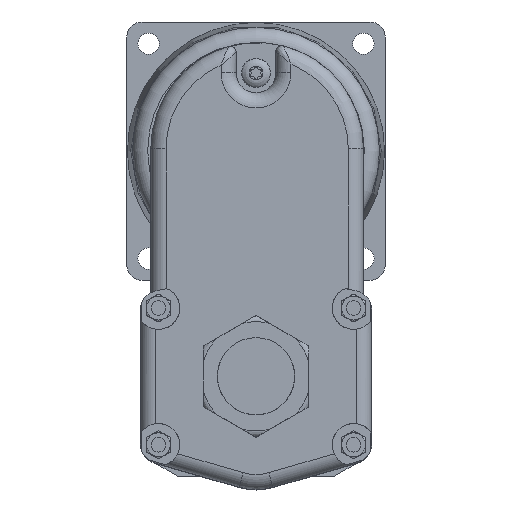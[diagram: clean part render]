
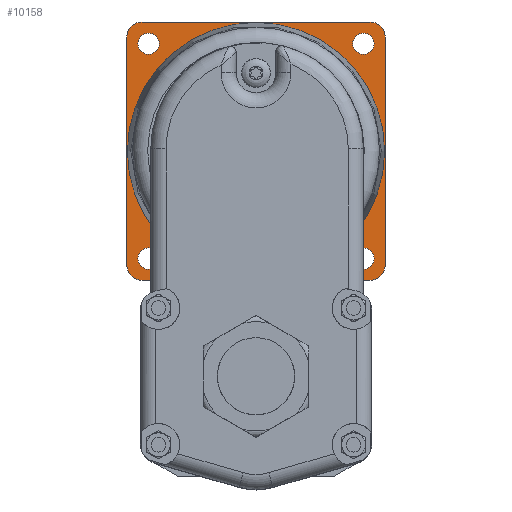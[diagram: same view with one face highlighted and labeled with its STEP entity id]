
A CAD part, top view. The second image highlights one B-rep face of the part: STEP entity #10158.
In plain terms, the highlighted planar face has unit normal (0, 0, 1).
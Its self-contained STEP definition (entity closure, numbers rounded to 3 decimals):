
#363 = ORIENTED_EDGE ( 'NONE', *, *, #9441, .F. ) ;
#364 = ORIENTED_EDGE ( 'NONE', *, *, #9446, .F. ) ;
#365 = ORIENTED_EDGE ( 'NONE', *, *, #9437, .T. ) ;
#366 = ORIENTED_EDGE ( 'NONE', *, *, #9447, .T. ) ;
#367 = ORIENTED_EDGE ( 'NONE', *, *, #9443, .T. ) ;
#368 = ORIENTED_EDGE ( 'NONE', *, *, #9448, .T. ) ;
#369 = ORIENTED_EDGE ( 'NONE', *, *, #9449, .T. ) ;
#370 = ORIENTED_EDGE ( 'NONE', *, *, #9450, .T. ) ;
#371 = ORIENTED_EDGE ( 'NONE', *, *, #9451, .T. ) ;
#372 = ORIENTED_EDGE ( 'NONE', *, *, #9452, .T. ) ;
#373 = ORIENTED_EDGE ( 'NONE', *, *, #9454, .F. ) ;
#374 = ORIENTED_EDGE ( 'NONE', *, *, #9456, .F. ) ;
#375 = ORIENTED_EDGE ( 'NONE', *, *, #9386, .T. ) ;
#1202 = EDGE_LOOP ( 'NONE', ( #375 ) ) ;
#1203 = EDGE_LOOP ( 'NONE', ( #374 ) ) ;
#1204 = EDGE_LOOP ( 'NONE', ( #373 ) ) ;
#1205 = EDGE_LOOP ( 'NONE', ( #365, #366, #367, #368, #369, #370, #371, #372 ) ) ;
#1206 = EDGE_LOOP ( 'NONE', ( #364 ) ) ;
#1213 = EDGE_LOOP ( 'NONE', ( #363 ) ) ;
#2157 = CIRCLE ( 'NONE', #2712, 42.331 ) ;
#2237 = LINE ( 'NONE', #3898, #2238 ) ;
#2238 = VECTOR ( 'NONE', #3899, 1000. ) ;
#2239 = LINE ( 'NONE', #3915, #2246 ) ;
#2243 = LINE ( 'NONE', #3937, #2254 ) ;
#2244 = LINE ( 'NONE', #3932, #2252 ) ;
#2245 = CIRCLE ( 'NONE', #2738, 3.5 ) ;
#2246 = VECTOR ( 'NONE', #3916, 1000. ) ;
#2251 = CIRCLE ( 'NONE', #2744, 3.5 ) ;
#2252 = VECTOR ( 'NONE', #3933, 1000. ) ;
#2253 = CIRCLE ( 'NONE', #2745, 5. ) ;
#2254 = VECTOR ( 'NONE', #3938, 1000. ) ;
#2255 = CIRCLE ( 'NONE', #2742, 5. ) ;
#2257 = CIRCLE ( 'NONE', #2746, 5. ) ;
#2260 = CIRCLE ( 'NONE', #2747, 5. ) ;
#2262 = CIRCLE ( 'NONE', #2748, 3.5 ) ;
#2265 = CIRCLE ( 'NONE', #2735, 3.5 ) ;
#2712 = AXIS2_PLACEMENT_3D ( 'NONE', #3770, #3778, #3779 ) ;
#2735 = AXIS2_PLACEMENT_3D ( 'NONE', #3948, #3949, #3950 ) ;
#2738 = AXIS2_PLACEMENT_3D ( 'NONE', #3909, #3910, #3911 ) ;
#2742 = AXIS2_PLACEMENT_3D ( 'NONE', #3923, #3930, #3931 ) ;
#2744 = AXIS2_PLACEMENT_3D ( 'NONE', #3901, #3924, #3925 ) ;
#2745 = AXIS2_PLACEMENT_3D ( 'NONE', #3920, #3927, #3928 ) ;
#2746 = AXIS2_PLACEMENT_3D ( 'NONE', #3926, #3935, #3936 ) ;
#2747 = AXIS2_PLACEMENT_3D ( 'NONE', #3929, #3940, #3941 ) ;
#2748 = AXIS2_PLACEMENT_3D ( 'NONE', #3934, #3944, #3945 ) ;
#3047 = AXIS2_PLACEMENT_3D ( 'NONE', #7183, #7186, #7187 ) ;
#3770 = CARTESIAN_POINT ( 'NONE',  ( 0., 74.4, -11.3 ) ) ;
#3778 = DIRECTION ( 'NONE',  ( 0., 0., -1. ) ) ;
#3779 = DIRECTION ( 'NONE',  ( -1., 0., 0. ) ) ;
#3898 = CARTESIAN_POINT ( 'NONE',  ( -42.5, 116.9, -11.3 ) ) ;
#3899 = DIRECTION ( 'NONE',  ( 0., -1., 0. ) ) ;
#3901 = CARTESIAN_POINT ( 'NONE',  ( -35.355, 39.045, -11.3 ) ) ;
#3909 = CARTESIAN_POINT ( 'NONE',  ( 35.355, 109.755, -11.3 ) ) ;
#3910 = DIRECTION ( 'NONE',  ( 0., 0., 1. ) ) ;
#3911 = DIRECTION ( 'NONE',  ( 1., 0., 0. ) ) ;
#3915 = CARTESIAN_POINT ( 'NONE',  ( -42.5, 31.9, -11.3 ) ) ;
#3916 = DIRECTION ( 'NONE',  ( 1., 0., 0. ) ) ;
#3920 = CARTESIAN_POINT ( 'NONE',  ( -37.5, 36.9, -11.3 ) ) ;
#3923 = CARTESIAN_POINT ( 'NONE',  ( 37.5, 36.9, -11.3 ) ) ;
#3924 = DIRECTION ( 'NONE',  ( 0., 0., 1. ) ) ;
#3925 = DIRECTION ( 'NONE',  ( 1., 0., 0. ) ) ;
#3926 = CARTESIAN_POINT ( 'NONE',  ( 37.5, 111.9, -11.3 ) ) ;
#3927 = DIRECTION ( 'NONE',  ( 0., 0., 1. ) ) ;
#3928 = DIRECTION ( 'NONE',  ( -1., 0., 0. ) ) ;
#3929 = CARTESIAN_POINT ( 'NONE',  ( -37.5, 111.9, -11.3 ) ) ;
#3930 = DIRECTION ( 'NONE',  ( 0., 0., 1. ) ) ;
#3931 = DIRECTION ( 'NONE',  ( -1., 0., 0. ) ) ;
#3932 = CARTESIAN_POINT ( 'NONE',  ( 42.5, 116.9, -11.3 ) ) ;
#3933 = DIRECTION ( 'NONE',  ( 0., 1., 0. ) ) ;
#3934 = CARTESIAN_POINT ( 'NONE',  ( 35.355, 39.045, -11.3 ) ) ;
#3935 = DIRECTION ( 'NONE',  ( 0., 0., 1. ) ) ;
#3936 = DIRECTION ( 'NONE',  ( -1., 0., 0. ) ) ;
#3937 = CARTESIAN_POINT ( 'NONE',  ( -42.5, 116.9, -11.3 ) ) ;
#3938 = DIRECTION ( 'NONE',  ( -1., 0., 0. ) ) ;
#3940 = DIRECTION ( 'NONE',  ( 0., 0., 1. ) ) ;
#3941 = DIRECTION ( 'NONE',  ( -1., 0., 0. ) ) ;
#3944 = DIRECTION ( 'NONE',  ( 0., 0., 1. ) ) ;
#3945 = DIRECTION ( 'NONE',  ( 1., 0., 0. ) ) ;
#3948 = CARTESIAN_POINT ( 'NONE',  ( -35.355, 109.755, -11.3 ) ) ;
#3949 = DIRECTION ( 'NONE',  ( 0., 0., 1. ) ) ;
#3950 = DIRECTION ( 'NONE',  ( 1., 0., 0. ) ) ;
#5402 = FACE_BOUND ( 'NONE', #1213, .T. ) ;
#5404 = FACE_BOUND ( 'NONE', #1202, .T. ) ;
#5405 = FACE_BOUND ( 'NONE', #1206, .T. ) ;
#5406 = FACE_BOUND ( 'NONE', #1203, .T. ) ;
#5409 = FACE_OUTER_BOUND ( 'NONE', #1205, .T. ) ;
#5411 = FACE_BOUND ( 'NONE', #1204, .T. ) ;
#7183 = CARTESIAN_POINT ( 'NONE',  ( 42.5, 116.9, -11.3 ) ) ;
#7184 = PLANE ( 'NONE',  #3047 ) ;
#7186 = DIRECTION ( 'NONE',  ( 0., 0., -1. ) ) ;
#7187 = DIRECTION ( 'NONE',  ( -1., 0., 0. ) ) ;
#8043 = CARTESIAN_POINT ( 'NONE',  ( -37.5, 116.9, -11.3 ) ) ;
#8044 = CARTESIAN_POINT ( 'NONE',  ( 37.5, 116.9, -11.3 ) ) ;
#8045 = CARTESIAN_POINT ( 'NONE',  ( 42.5, 111.9, -11.3 ) ) ;
#8046 = CARTESIAN_POINT ( 'NONE',  ( 37.5, 31.9, -11.3 ) ) ;
#8047 = CARTESIAN_POINT ( 'NONE',  ( -37.5, 31.9, -11.3 ) ) ;
#8048 = CARTESIAN_POINT ( 'NONE',  ( -42.5, 36.9, -11.3 ) ) ;
#8049 = CARTESIAN_POINT ( 'NONE',  ( 42.5, 36.9, -11.3 ) ) ;
#8050 = CARTESIAN_POINT ( 'NONE',  ( -42.5, 111.9, -11.3 ) ) ;
#8310 = VERTEX_POINT ( 'NONE', #8311 ) ;
#8311 = CARTESIAN_POINT ( 'NONE',  ( -42.331, 74.4, -11.3 ) ) ;
#8322 = VERTEX_POINT ( 'NONE', #8323 ) ;
#8323 = CARTESIAN_POINT ( 'NONE',  ( 38.855, 109.755, -11.3 ) ) ;
#8330 = VERTEX_POINT ( 'NONE', #8331 ) ;
#8331 = CARTESIAN_POINT ( 'NONE',  ( -31.855, 39.045, -11.3 ) ) ;
#8332 = VERTEX_POINT ( 'NONE', #8333 ) ;
#8333 = CARTESIAN_POINT ( 'NONE',  ( 38.855, 39.045, -11.3 ) ) ;
#8334 = VERTEX_POINT ( 'NONE', #8335 ) ;
#8335 = CARTESIAN_POINT ( 'NONE',  ( -31.855, 109.755, -11.3 ) ) ;
#9386 = EDGE_CURVE ( 'NONE', #8310, #8310, #2157, .T. ) ;
#9437 = EDGE_CURVE ( 'NONE', #10562, #10560, #2237, .T. ) ;
#9441 = EDGE_CURVE ( 'NONE', #8322, #8322, #2245, .T. ) ;
#9443 = EDGE_CURVE ( 'NONE', #10559, #10558, #2239, .T. ) ;
#9446 = EDGE_CURVE ( 'NONE', #8330, #8330, #2251, .T. ) ;
#9447 = EDGE_CURVE ( 'NONE', #10560, #10559, #2253, .T. ) ;
#9448 = EDGE_CURVE ( 'NONE', #10558, #10561, #2255, .T. ) ;
#9449 = EDGE_CURVE ( 'NONE', #10561, #10557, #2244, .T. ) ;
#9450 = EDGE_CURVE ( 'NONE', #10557, #10556, #2257, .T. ) ;
#9451 = EDGE_CURVE ( 'NONE', #10556, #10555, #2243, .T. ) ;
#9452 = EDGE_CURVE ( 'NONE', #10555, #10562, #2260, .T. ) ;
#9454 = EDGE_CURVE ( 'NONE', #8332, #8332, #2262, .T. ) ;
#9456 = EDGE_CURVE ( 'NONE', #8334, #8334, #2265, .T. ) ;
#10158 = ADVANCED_FACE ( 'NONE', ( #5402, #5405, #5409, #5411, #5406, #5404 ), #7184, .F. ) ;
#10555 = VERTEX_POINT ( 'NONE', #8043 ) ;
#10556 = VERTEX_POINT ( 'NONE', #8044 ) ;
#10557 = VERTEX_POINT ( 'NONE', #8045 ) ;
#10558 = VERTEX_POINT ( 'NONE', #8046 ) ;
#10559 = VERTEX_POINT ( 'NONE', #8047 ) ;
#10560 = VERTEX_POINT ( 'NONE', #8048 ) ;
#10561 = VERTEX_POINT ( 'NONE', #8049 ) ;
#10562 = VERTEX_POINT ( 'NONE', #8050 ) ;
